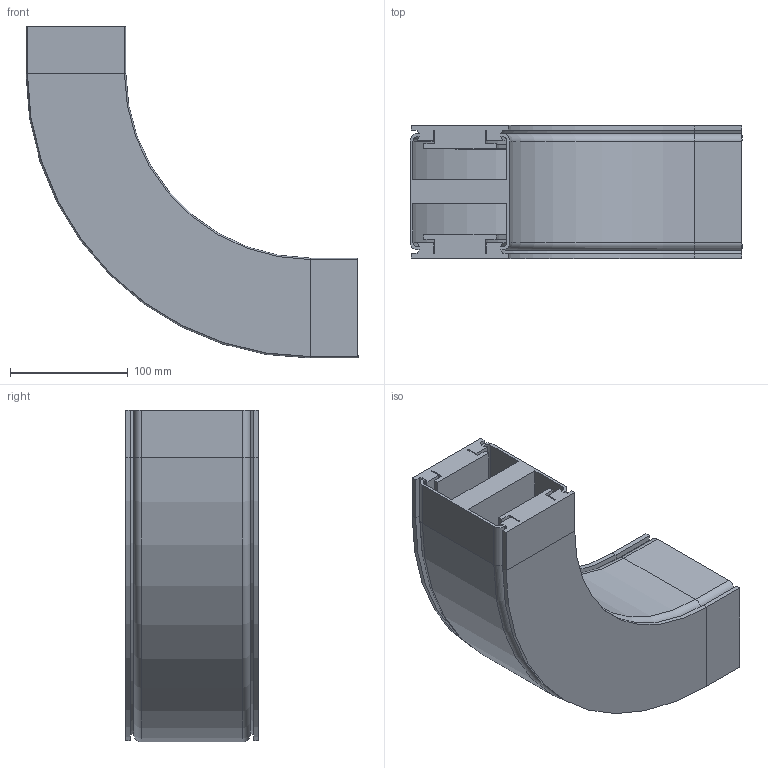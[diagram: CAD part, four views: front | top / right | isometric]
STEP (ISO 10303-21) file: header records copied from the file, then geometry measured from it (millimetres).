
FILE_DESCRIPTION (( 'STEP AP214' ), '1' );
FILE_NAME ('VC.85 Horizontale bochtsectie R200 90°.STEP', '2016-10-19T07:04:51', ( '' ), ( '' ), 'SwSTEP 2.0', 'SolidWorks 2016', '' );
FILE_SCHEMA (( 'AUTOMOTIVE_DESIGN' ));
Length unit declared in the file: millimetre
Products named in the file (1): VC.85 Horizontale bochtsectie R200 90°
Bounding box: 282.5 x 113 x 282.5 mm (x, y, z)
Volume: 1879008.5 mm3; surface area: 438658.1 mm2
Topology: 1 solids, 1 shells, 206 faces, 476 edges, 272 vertices
Faces by surface type: plane 152, cylinder 38, cone 8, torus 8
Entity records: 5674 total; most frequent: DIRECTION 990, CARTESIAN_POINT 955, ORIENTED_EDGE 952, EDGE_CURVE 476, VECTOR 376, LINE 376, AXIS2_PLACEMENT_3D 307, VERTEX_POINT 272
